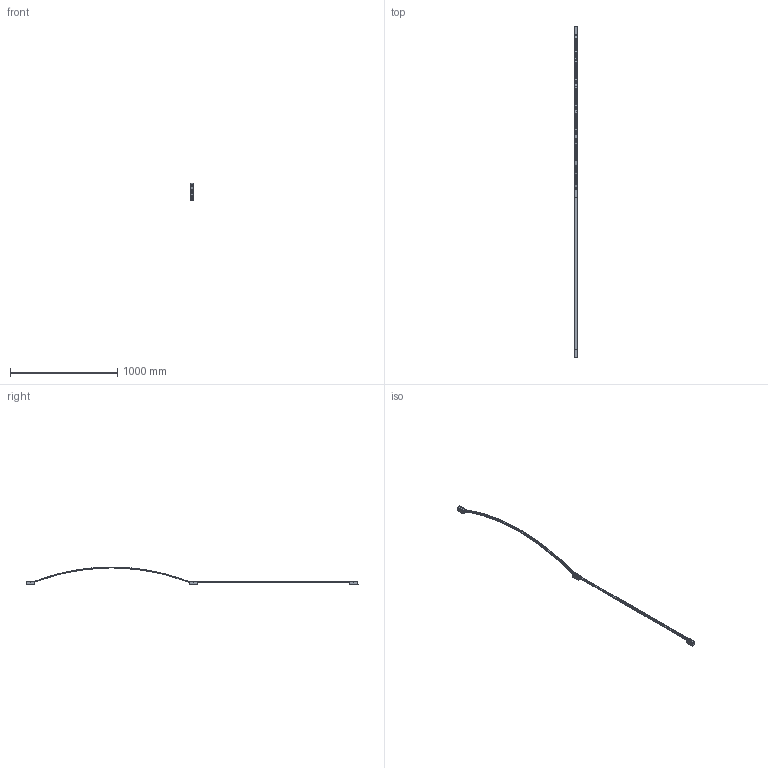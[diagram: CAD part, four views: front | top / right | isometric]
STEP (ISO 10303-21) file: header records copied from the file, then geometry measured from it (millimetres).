
FILE_DESCRIPTION(/* description */ (''),/* implementation_level */ '2;1');
FILE_NAME(/* name */ 'A11388~1',/* time_stamp */ '2024-07-02T12:24:55+02:00',/* author */ (''),/* organization */ (''),/* preprocessor_version */ 'ST-DEVELOPER v16.5',/* originating_system */ '',/* authorisation */ '');
FILE_SCHEMA (('AUTOMOTIVE_DESIGN'));
Length unit declared in the file: millimetre
Products named in the file (10): Configurazione 5; Profilo curvato_Kit B - Curvo; P22UT.0088 (blocchetto di fissaggio a muro ALL  + cover per blocchett
o di fissaggio ALL)_P22UT.0088 - con chiusura inferiore; 3300.0428000.00 (profilo quadro a U ALL 35x35mm H 75mm sp 2 con fori 
M4)_3306.0428075.00; sheet metal screws_din_Tapping screw DIN 7049-ST3.5x9.5-C-H-N; 3300.0429000.00 (piastra di chiusura ALL 27x10mm sp 1,2)_3301.0429000.
00; socket set screw flat point_iso_ISO 4026 - M3 x 6-N; 4504.0008000.00 (bloccacavo a ponticello NY bianco Steab 5922-16)_450
4.0008000.00; 3300.0427000.00 (blocchetto di fissaggio a muro ALL 30x32,8mm H 75,5m
m)_3307.0427075.00; P22UT.0088 (blocchetto di fissaggio a muro ALL  + cover per blocchett
o di fissaggio ALL)_P22UT.0088 - passante
Assembly tree (16 placements, depth 3):
  Configurazione 5
    Profilo curvato_Kit B - Curvo
    P22UT.0088 (blocchetto di fissaggio a muro ALL  + cover per blocchett
o di fissaggio ALL)_P22UT.0088 - con chiusura inferiore  x2
      3300.0428000.00 (profilo quadro a U ALL 35x35mm H 75mm sp 2 con fori 
M4)_3306.0428075.00
      sheet metal screws_din_Tapping screw DIN 7049-ST3.5x9.5-C-H-N
      3300.0429000.00 (piastra di chiusura ALL 27x10mm sp 1,2)_3301.0429000.
00
      socket set screw flat point_iso_ISO 4026 - M3 x 6-N
      4504.0008000.00 (bloccacavo a ponticello NY bianco Steab 5922-16)_450
4.0008000.00
      3300.0427000.00 (blocchetto di fissaggio a muro ALL 30x32,8mm H 75,5m
m)_3307.0427075.00
    P22UT.0088 (blocchetto di fissaggio a muro ALL  + cover per blocchett
o di fissaggio ALL)_P22UT.0088 - passante
      socket set screw flat point_iso_ISO 4026 - M3 x 6-N  x2
      3300.0428000.00 (profilo quadro a U ALL 35x35mm H 75mm sp 2 con fori 
M4)_3306.0428075.00
      3300.0427000.00 (blocchetto di fissaggio a muro ALL 30x32,8mm H 75,5m
m)_3307.0427075.00
Bounding box: 35 x 3092.22 x 167.44 mm (x, y, z)
Volume: 347824.6 mm3; surface area: 514611 mm2
Topology: 22 solids, 22 shells, 1804 faces, 4305 edges, 2538 vertices
Faces by surface type: bspline 1322, plane 482
Entity records: 36426 total; most frequent: CARTESIAN_POINT 25604, ORIENTED_EDGE 3646, EDGE_CURVE 1823, VERTEX_POINT 1061, B_SPLINE_CURVE_WITH_KNOTS 889, EDGE_LOOP 814, ADVANCED_FACE 783, FACE_OUTER_BOUND 783
